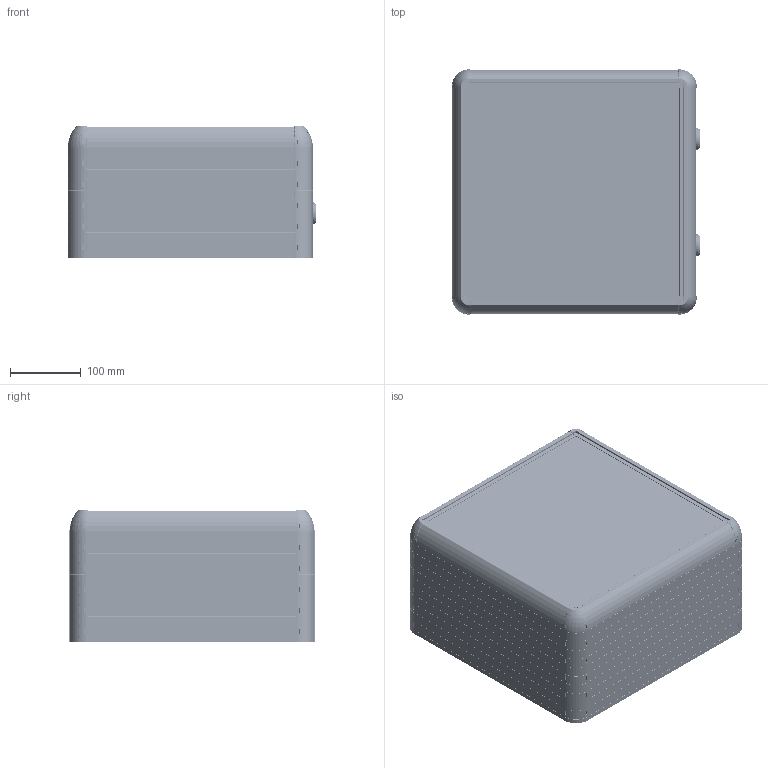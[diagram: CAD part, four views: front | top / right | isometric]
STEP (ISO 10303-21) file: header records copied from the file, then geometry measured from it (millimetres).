
FILE_DESCRIPTION (( 'STEP AP214' ), '1' );
FILE_NAME ('9090-0005.STEP', '2022-04-21T11:01:14', ( '' ), ( '' ), 'SwSTEP 2.0', 'SolidWorks 2022', '' );
FILE_SCHEMA (( 'AUTOMOTIVE_DESIGN' ));
Length unit declared in the file: millimetre
Products named in the file (11): x90 vidalý 300X300; HPECOX-090-001_295; x90 delikli 295_295; HPECO-090-001-295_295; 300X300; KLTECO-001-00; 9000-0005; ECO9000-0000; ECO90X; 9090-0005; ARKA_KAPAK_VÝDALI_300X300
Assembly tree (22 placements, depth 3):
  9090-0005
    9000-0005
      300X300
      ECO9000-0000  x4
      HPECO-090-001-295_295  x4
    x90 vidalý 300X300
      ARKA_KAPAK_VÝDALI_300X300
      ECO90X  x4
      x90 delikli 295_295
      HPECOX-090-001_295  x3
      KLTECO-001-00  x2
Bounding box: 351.78 x 347 x 187.09 mm (x, y, z)
Volume: 3765801.6 mm3; surface area: 1331505.6 mm2
Topology: 48 solids, 48 shells, 9014 faces, 23006 edges, 13904 vertices
Faces by surface type: plane 3212, bspline 2508, cylinder 2276, cone 634, torus 304, sphere 80
Entity records: 114546 total; most frequent: CARTESIAN_POINT 35180, ORIENTED_EDGE 12750, DIRECTION 9657, EDGE_CURVE 6375, VERTEX_POINT 3897, AXIS2_PLACEMENT_3D 3423, LINE 2811, VECTOR 2811
